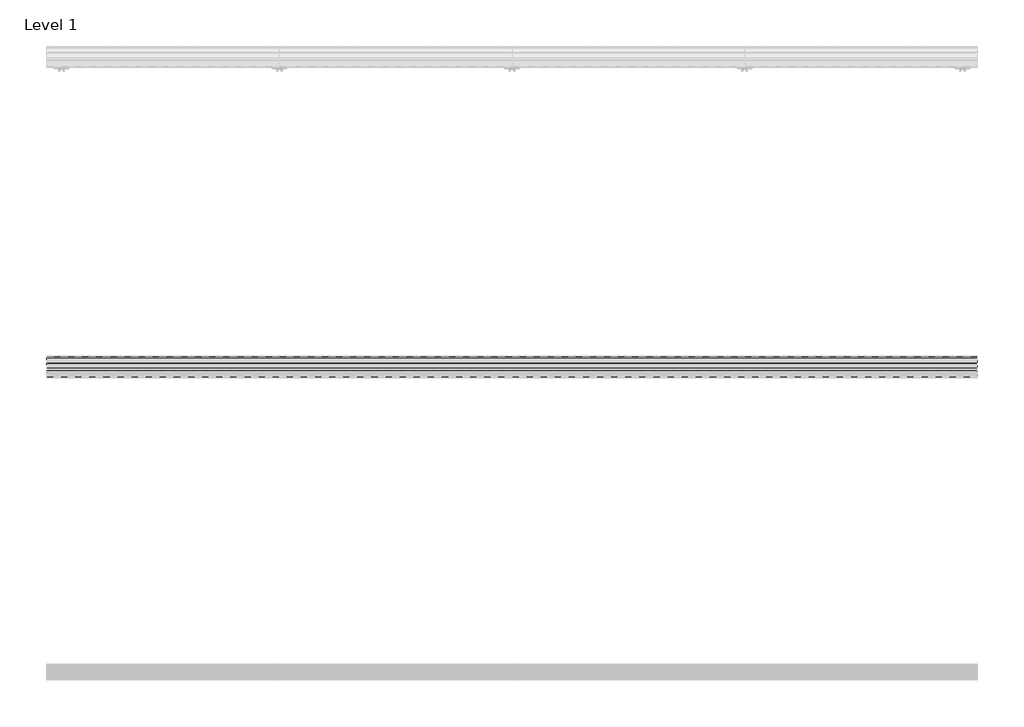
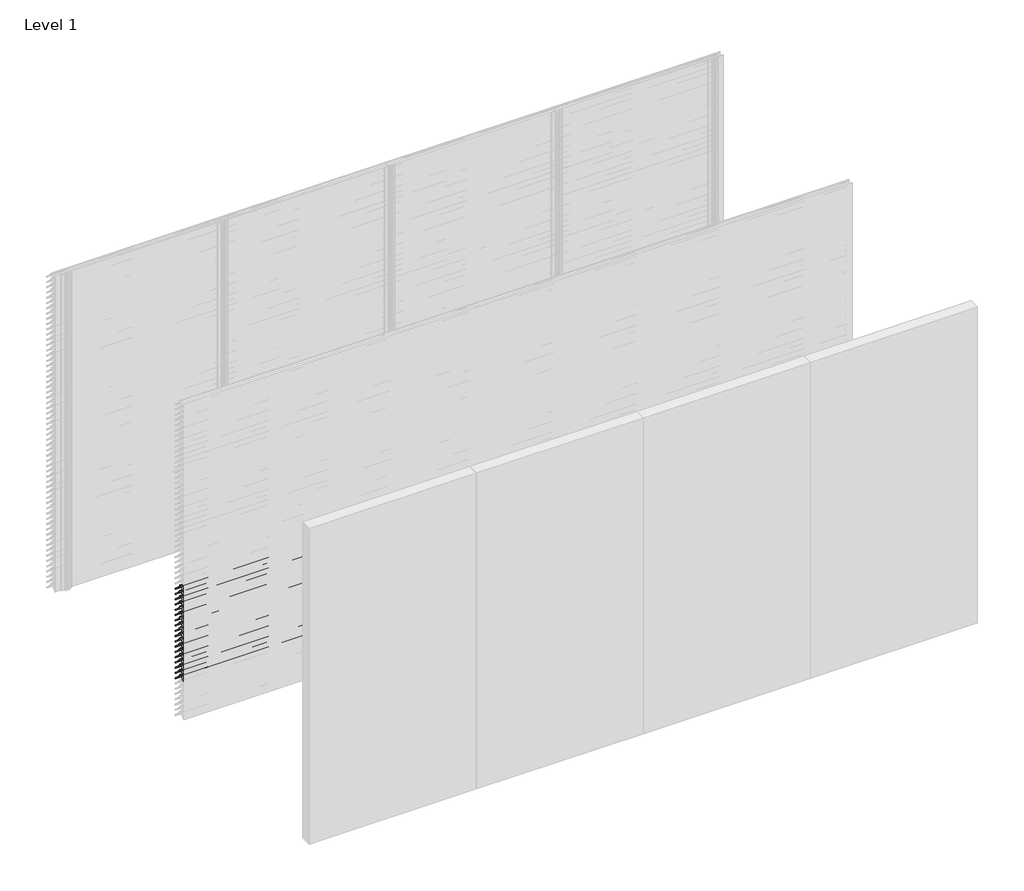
# One storey, part 5 of 173: 18 proxies.
"""IFC4 building model written with IfcOpenShell, lengths in millimetres."""

from ifc_helpers import new_model, si_unit, point, frame, frame_2d, origin, place, context, project, spatial, polyline, circle_curve, trimmed, segment, composite_curve, outline, extrude, element, save

model = new_model("IFC4")

# Units and contexts
model_context = context("Model", 3, world=origin())
ifc_project = project(units=[si_unit("LENGTHUNIT", "METRE", prefix="MILLI")], contexts=[model_context])

# Site, building, storey
site = spatial("IfcSite", under=ifc_project)
building = spatial("IfcBuilding", under=site)
storey = spatial("IfcBuildingStorey", under=building, Name="Level 1", Elevation=0.0)

# Proxies
placement = place(None, origin())
element("IfcBuildingElementProxy", 1, Name="Wall Sweeps", at=placement, inside=storey, context=model_context, shape_type="SweptSolid", body=[
    extrude(outline(composite_curve([segment(polyline([(-55998.0, 1209.1474905), (-55998.0, 1211.6227417)]), True, "CONTINUOUS"), segment(trimmed(circle_curve(frame_2d((-55951.2682172, 1166.2200208)), 65.1557103), [point((-55998.0, 1211.6227417))], [point((-55954.4014323, 1231.3003524))], False, "CARTESIAN"), True, "CONTINUOUS"), segment(polyline([(-55954.4014323, 1231.3003524), (-55934.8315836, 1231.3003524)]), True, "CONTINUOUS"), segment(trimmed(circle_curve(frame_2d((-55732.7329489, 1378.5533172)), 250.0545817), [point((-55934.8315836, 1231.3003524))], [point((-55941.4452143, 1240.8344583))], False, "CARTESIAN"), True, "CONTINUOUS"), segment(trimmed(circle_curve(frame_2d((-55953.2981792, 1235.1737835)), 13.1352966), [point((-55941.4452143, 1240.8344583))], [point((-55953.8171475, 1248.298824))], True, "CARTESIAN"), True, "CONTINUOUS"), segment(polyline([(-55953.8171475, 1248.298824), (-55953.8171475, 1250.0)]), True, "CONTINUOUS"), segment(trimmed(circle_curve(frame_2d((-55953.2981792, 1235.1737835)), 14.8352966), [point((-55953.8171475, 1250.0))], [point((-55939.9637661, 1241.6760487))], False, "CARTESIAN"), True, "CONTINUOUS"), segment(trimmed(circle_curve(frame_2d((-55732.7329489, 1378.5533172)), 248.3545817), [point((-55939.9637661, 1241.6760487))], [point((-55873.8787895, 1174.2059416))], True, "CARTESIAN"), True, "CONTINUOUS"), segment(trimmed(circle_curve(frame_2d((-55883.8147537, 1161.6649442)), 16.0), [point((-55873.8787895, 1174.2059416))], [point((-55867.8648347, 1160.4))], False, "CARTESIAN"), True, "CONTINUOUS"), segment(polyline([(-55867.8648347, 1160.4), (-55869.6712069, 1160.4)]), True, "CONTINUOUS"), segment(trimmed(circle_curve(frame_2d((-55883.8147537, 1161.6649442)), 14.2), [point((-55869.6712069, 1160.4))], [point((-55874.9518628, 1172.7594998))], True, "CARTESIAN"), True, "CONTINUOUS"), segment(trimmed(circle_curve(frame_2d((-55732.7329489, 1378.5533172)), 250.1545817), [point((-55874.9518628, 1172.7594998))], [point((-55933.7064024, 1229.6003524))], False, "CARTESIAN"), True, "CONTINUOUS"), segment(polyline([(-55933.7064024, 1229.6003524), (-55954.3602632, 1229.6003524)]), True, "CONTINUOUS"), segment(trimmed(circle_curve(frame_2d((-55951.2682172, 1166.2200208)), 63.4557103), [point((-55954.3602632, 1229.6003524))], [point((-55998.0, 1209.1474905))], True, "CARTESIAN"), True, "CONTINUOUS")], self_intersect=False)), frame((0.0, 0.0, 0.0), z_axis=(1.0, 0.0, 0.0), x_axis=(0.0, 1.0, 0.0)), (0.0, 0.0, 1.0), 6000.0),
])
element("IfcBuildingElementProxy", 2, Name="Wall Sweeps", at=placement, inside=storey, context=model_context, shape_type="SweptSolid", body=[
    extrude(outline(composite_curve([segment(polyline([(-55998.0, 1159.1474905), (-55998.0, 1161.6227417)]), True, "CONTINUOUS"), segment(trimmed(circle_curve(frame_2d((-55951.2682172, 1116.2200208)), 65.1557103), [point((-55998.0, 1161.6227417))], [point((-55954.4014323, 1181.3003524))], False, "CARTESIAN"), True, "CONTINUOUS"), segment(polyline([(-55954.4014323, 1181.3003524), (-55934.8315836, 1181.3003524)]), True, "CONTINUOUS"), segment(trimmed(circle_curve(frame_2d((-55732.7329489, 1328.5533172)), 250.0545817), [point((-55934.8315836, 1181.3003524))], [point((-55941.4452143, 1190.8344583))], False, "CARTESIAN"), True, "CONTINUOUS"), segment(trimmed(circle_curve(frame_2d((-55953.2981792, 1185.1737835)), 13.1352966), [point((-55941.4452143, 1190.8344583))], [point((-55953.8171475, 1198.298824))], True, "CARTESIAN"), True, "CONTINUOUS"), segment(polyline([(-55953.8171475, 1198.298824), (-55953.8171475, 1200.0)]), True, "CONTINUOUS"), segment(trimmed(circle_curve(frame_2d((-55953.2981792, 1185.1737835)), 14.8352966), [point((-55953.8171475, 1200.0))], [point((-55939.9637661, 1191.6760487))], False, "CARTESIAN"), True, "CONTINUOUS"), segment(trimmed(circle_curve(frame_2d((-55732.7329489, 1328.5533172)), 248.3545817), [point((-55939.9637661, 1191.6760487))], [point((-55873.8787895, 1124.2059416))], True, "CARTESIAN"), True, "CONTINUOUS"), segment(trimmed(circle_curve(frame_2d((-55883.8147537, 1111.6649442)), 16.0), [point((-55873.8787895, 1124.2059416))], [point((-55867.8648347, 1110.4))], False, "CARTESIAN"), True, "CONTINUOUS"), segment(polyline([(-55867.8648347, 1110.4), (-55869.6712069, 1110.4)]), True, "CONTINUOUS"), segment(trimmed(circle_curve(frame_2d((-55883.8147537, 1111.6649442)), 14.2), [point((-55869.6712069, 1110.4))], [point((-55874.9518628, 1122.7594998))], True, "CARTESIAN"), True, "CONTINUOUS"), segment(trimmed(circle_curve(frame_2d((-55732.7329489, 1328.5533172)), 250.1545817), [point((-55874.9518628, 1122.7594998))], [point((-55933.7064024, 1179.6003524))], False, "CARTESIAN"), True, "CONTINUOUS"), segment(polyline([(-55933.7064024, 1179.6003524), (-55954.3602632, 1179.6003524)]), True, "CONTINUOUS"), segment(trimmed(circle_curve(frame_2d((-55951.2682172, 1116.2200208)), 63.4557103), [point((-55954.3602632, 1179.6003524))], [point((-55998.0, 1159.1474905))], True, "CARTESIAN"), True, "CONTINUOUS")], self_intersect=False)), frame((0.0, 0.0, 0.0), z_axis=(1.0, 0.0, 0.0), x_axis=(0.0, 1.0, 0.0)), (0.0, 0.0, 1.0), 6000.0),
])
element("IfcBuildingElementProxy", 3, Name="Wall Sweeps", at=placement, inside=storey, context=model_context, shape_type="SweptSolid", body=[
    extrude(outline(composite_curve([segment(polyline([(-55998.0, 1109.1474905), (-55998.0, 1111.6227417)]), True, "CONTINUOUS"), segment(trimmed(circle_curve(frame_2d((-55951.2682172, 1066.2200208)), 65.1557103), [point((-55998.0, 1111.6227417))], [point((-55954.4014323, 1131.3003524))], False, "CARTESIAN"), True, "CONTINUOUS"), segment(polyline([(-55954.4014323, 1131.3003524), (-55934.8315836, 1131.3003524)]), True, "CONTINUOUS"), segment(trimmed(circle_curve(frame_2d((-55732.7329489, 1278.5533172)), 250.0545817), [point((-55934.8315836, 1131.3003524))], [point((-55941.4452143, 1140.8344583))], False, "CARTESIAN"), True, "CONTINUOUS"), segment(trimmed(circle_curve(frame_2d((-55953.2981792, 1135.1737835)), 13.1352966), [point((-55941.4452143, 1140.8344583))], [point((-55953.8171475, 1148.298824))], True, "CARTESIAN"), True, "CONTINUOUS"), segment(polyline([(-55953.8171475, 1148.298824), (-55953.8171475, 1150.0)]), True, "CONTINUOUS"), segment(trimmed(circle_curve(frame_2d((-55953.2981792, 1135.1737835)), 14.8352966), [point((-55953.8171475, 1150.0))], [point((-55939.9637661, 1141.6760487))], False, "CARTESIAN"), True, "CONTINUOUS"), segment(trimmed(circle_curve(frame_2d((-55732.7329489, 1278.5533172)), 248.3545817), [point((-55939.9637661, 1141.6760487))], [point((-55873.8787895, 1074.2059416))], True, "CARTESIAN"), True, "CONTINUOUS"), segment(trimmed(circle_curve(frame_2d((-55883.8147537, 1061.6649442)), 16.0), [point((-55873.8787895, 1074.2059416))], [point((-55867.8648347, 1060.4))], False, "CARTESIAN"), True, "CONTINUOUS"), segment(polyline([(-55867.8648347, 1060.4), (-55869.6712069, 1060.4)]), True, "CONTINUOUS"), segment(trimmed(circle_curve(frame_2d((-55883.8147537, 1061.6649442)), 14.2), [point((-55869.6712069, 1060.4))], [point((-55874.9518628, 1072.7594998))], True, "CARTESIAN"), True, "CONTINUOUS"), segment(trimmed(circle_curve(frame_2d((-55732.7329489, 1278.5533172)), 250.1545817), [point((-55874.9518628, 1072.7594998))], [point((-55933.7064024, 1129.6003524))], False, "CARTESIAN"), True, "CONTINUOUS"), segment(polyline([(-55933.7064024, 1129.6003524), (-55954.3602632, 1129.6003524)]), True, "CONTINUOUS"), segment(trimmed(circle_curve(frame_2d((-55951.2682172, 1066.2200208)), 63.4557103), [point((-55954.3602632, 1129.6003524))], [point((-55998.0, 1109.1474905))], True, "CARTESIAN"), True, "CONTINUOUS")], self_intersect=False)), frame((0.0, 0.0, 0.0), z_axis=(1.0, 0.0, 0.0), x_axis=(0.0, 1.0, 0.0)), (0.0, 0.0, 1.0), 6000.0),
])
element("IfcBuildingElementProxy", 4, Name="Wall Sweeps", at=placement, inside=storey, context=model_context, shape_type="SweptSolid", body=[
    extrude(outline(composite_curve([segment(polyline([(-55998.0, 1059.1474905), (-55998.0, 1061.6227417)]), True, "CONTINUOUS"), segment(trimmed(circle_curve(frame_2d((-55951.2682172, 1016.2200208)), 65.1557103), [point((-55998.0, 1061.6227417))], [point((-55954.4014323, 1081.3003524))], False, "CARTESIAN"), True, "CONTINUOUS"), segment(polyline([(-55954.4014323, 1081.3003524), (-55934.8315836, 1081.3003524)]), True, "CONTINUOUS"), segment(trimmed(circle_curve(frame_2d((-55732.7329489, 1228.5533172)), 250.0545817), [point((-55934.8315836, 1081.3003524))], [point((-55941.4452143, 1090.8344583))], False, "CARTESIAN"), True, "CONTINUOUS"), segment(trimmed(circle_curve(frame_2d((-55953.2981792, 1085.1737835)), 13.1352966), [point((-55941.4452143, 1090.8344583))], [point((-55953.8171475, 1098.298824))], True, "CARTESIAN"), True, "CONTINUOUS"), segment(polyline([(-55953.8171475, 1098.298824), (-55953.8171475, 1100.0)]), True, "CONTINUOUS"), segment(trimmed(circle_curve(frame_2d((-55953.2981792, 1085.1737835)), 14.8352966), [point((-55953.8171475, 1100.0))], [point((-55939.9637661, 1091.6760487))], False, "CARTESIAN"), True, "CONTINUOUS"), segment(trimmed(circle_curve(frame_2d((-55732.7329489, 1228.5533172)), 248.3545817), [point((-55939.9637661, 1091.6760487))], [point((-55873.8787895, 1024.2059416))], True, "CARTESIAN"), True, "CONTINUOUS"), segment(trimmed(circle_curve(frame_2d((-55883.8147537, 1011.6649442)), 16.0), [point((-55873.8787895, 1024.2059416))], [point((-55867.8648347, 1010.4))], False, "CARTESIAN"), True, "CONTINUOUS"), segment(polyline([(-55867.8648347, 1010.4), (-55869.6712069, 1010.4)]), True, "CONTINUOUS"), segment(trimmed(circle_curve(frame_2d((-55883.8147537, 1011.6649442)), 14.2), [point((-55869.6712069, 1010.4))], [point((-55874.9518628, 1022.7594998))], True, "CARTESIAN"), True, "CONTINUOUS"), segment(trimmed(circle_curve(frame_2d((-55732.7329489, 1228.5533172)), 250.1545817), [point((-55874.9518628, 1022.7594998))], [point((-55933.7064024, 1079.6003524))], False, "CARTESIAN"), True, "CONTINUOUS"), segment(polyline([(-55933.7064024, 1079.6003524), (-55954.3602632, 1079.6003524)]), True, "CONTINUOUS"), segment(trimmed(circle_curve(frame_2d((-55951.2682172, 1016.2200208)), 63.4557103), [point((-55954.3602632, 1079.6003524))], [point((-55998.0, 1059.1474905))], True, "CARTESIAN"), True, "CONTINUOUS")], self_intersect=False)), frame((0.0, 0.0, 0.0), z_axis=(1.0, 0.0, 0.0), x_axis=(0.0, 1.0, 0.0)), (0.0, 0.0, 1.0), 6000.0),
])
element("IfcBuildingElementProxy", 5, Name="Wall Sweeps", at=placement, inside=storey, context=model_context, shape_type="SweptSolid", body=[
    extrude(outline(composite_curve([segment(polyline([(-55998.0, 1009.1474905), (-55998.0, 1011.6227417)]), True, "CONTINUOUS"), segment(trimmed(circle_curve(frame_2d((-55951.2682172, 966.2200208)), 65.1557103), [point((-55998.0, 1011.6227417))], [point((-55954.4014323, 1031.3003524))], False, "CARTESIAN"), True, "CONTINUOUS"), segment(polyline([(-55954.4014323, 1031.3003524), (-55934.8315836, 1031.3003524)]), True, "CONTINUOUS"), segment(trimmed(circle_curve(frame_2d((-55732.7329489, 1178.5533172)), 250.0545817), [point((-55934.8315836, 1031.3003524))], [point((-55941.4452143, 1040.8344583))], False, "CARTESIAN"), True, "CONTINUOUS"), segment(trimmed(circle_curve(frame_2d((-55953.2981792, 1035.1737835)), 13.1352966), [point((-55941.4452143, 1040.8344583))], [point((-55953.8171475, 1048.298824))], True, "CARTESIAN"), True, "CONTINUOUS"), segment(polyline([(-55953.8171475, 1048.298824), (-55953.8171475, 1050.0)]), True, "CONTINUOUS"), segment(trimmed(circle_curve(frame_2d((-55953.2981792, 1035.1737835)), 14.8352966), [point((-55953.8171475, 1050.0))], [point((-55939.9637661, 1041.6760487))], False, "CARTESIAN"), True, "CONTINUOUS"), segment(trimmed(circle_curve(frame_2d((-55732.7329489, 1178.5533172)), 248.3545817), [point((-55939.9637661, 1041.6760487))], [point((-55873.8787895, 974.2059416))], True, "CARTESIAN"), True, "CONTINUOUS"), segment(trimmed(circle_curve(frame_2d((-55883.8147537, 961.6649442)), 16.0), [point((-55873.8787895, 974.2059416))], [point((-55867.8648347, 960.4))], False, "CARTESIAN"), True, "CONTINUOUS"), segment(polyline([(-55867.8648347, 960.4), (-55869.6712069, 960.4)]), True, "CONTINUOUS"), segment(trimmed(circle_curve(frame_2d((-55883.8147537, 961.6649442)), 14.2), [point((-55869.6712069, 960.4))], [point((-55874.9518628, 972.7594998))], True, "CARTESIAN"), True, "CONTINUOUS"), segment(trimmed(circle_curve(frame_2d((-55732.7329489, 1178.5533172)), 250.1545817), [point((-55874.9518628, 972.7594998))], [point((-55933.7064024, 1029.6003524))], False, "CARTESIAN"), True, "CONTINUOUS"), segment(polyline([(-55933.7064024, 1029.6003524), (-55954.3602632, 1029.6003524)]), True, "CONTINUOUS"), segment(trimmed(circle_curve(frame_2d((-55951.2682172, 966.2200208)), 63.4557103), [point((-55954.3602632, 1029.6003524))], [point((-55998.0, 1009.1474905))], True, "CARTESIAN"), True, "CONTINUOUS")], self_intersect=False)), frame((0.0, 0.0, 0.0), z_axis=(1.0, 0.0, 0.0), x_axis=(0.0, 1.0, 0.0)), (0.0, 0.0, 1.0), 6000.0),
])
element("IfcBuildingElementProxy", 6, Name="Wall Sweeps", at=placement, inside=storey, context=model_context, shape_type="SweptSolid", body=[
    extrude(outline(composite_curve([segment(polyline([(-55998.0, 959.1474905), (-55998.0, 961.6227417)]), True, "CONTINUOUS"), segment(trimmed(circle_curve(frame_2d((-55951.2682172, 916.2200208)), 65.1557103), [point((-55998.0, 961.6227417))], [point((-55954.4014323, 981.3003524))], False, "CARTESIAN"), True, "CONTINUOUS"), segment(polyline([(-55954.4014323, 981.3003524), (-55934.8315836, 981.3003524)]), True, "CONTINUOUS"), segment(trimmed(circle_curve(frame_2d((-55732.7329489, 1128.5533172)), 250.0545817), [point((-55934.8315836, 981.3003524))], [point((-55941.4452143, 990.8344583))], False, "CARTESIAN"), True, "CONTINUOUS"), segment(trimmed(circle_curve(frame_2d((-55953.2981792, 985.1737835)), 13.1352966), [point((-55941.4452143, 990.8344583))], [point((-55953.8171475, 998.298824))], True, "CARTESIAN"), True, "CONTINUOUS"), segment(polyline([(-55953.8171475, 998.298824), (-55953.8171475, 1000.0)]), True, "CONTINUOUS"), segment(trimmed(circle_curve(frame_2d((-55953.2981792, 985.1737835)), 14.8352966), [point((-55953.8171475, 1000.0))], [point((-55939.9637661, 991.6760487))], False, "CARTESIAN"), True, "CONTINUOUS"), segment(trimmed(circle_curve(frame_2d((-55732.7329489, 1128.5533172)), 248.3545817), [point((-55939.9637661, 991.6760487))], [point((-55873.8787895, 924.2059416))], True, "CARTESIAN"), True, "CONTINUOUS"), segment(trimmed(circle_curve(frame_2d((-55883.8147537, 911.6649442)), 16.0), [point((-55873.8787895, 924.2059416))], [point((-55867.8648347, 910.4))], False, "CARTESIAN"), True, "CONTINUOUS"), segment(polyline([(-55867.8648347, 910.4), (-55869.6712069, 910.4)]), True, "CONTINUOUS"), segment(trimmed(circle_curve(frame_2d((-55883.8147537, 911.6649442)), 14.2), [point((-55869.6712069, 910.4))], [point((-55874.9518628, 922.7594998))], True, "CARTESIAN"), True, "CONTINUOUS"), segment(trimmed(circle_curve(frame_2d((-55732.7329489, 1128.5533172)), 250.1545817), [point((-55874.9518628, 922.7594998))], [point((-55933.7064024, 979.6003524))], False, "CARTESIAN"), True, "CONTINUOUS"), segment(polyline([(-55933.7064024, 979.6003524), (-55954.3602632, 979.6003524)]), True, "CONTINUOUS"), segment(trimmed(circle_curve(frame_2d((-55951.2682172, 916.2200208)), 63.4557103), [point((-55954.3602632, 979.6003524))], [point((-55998.0, 959.1474905))], True, "CARTESIAN"), True, "CONTINUOUS")], self_intersect=False)), frame((0.0, 0.0, 0.0), z_axis=(1.0, 0.0, 0.0), x_axis=(0.0, 1.0, 0.0)), (0.0, 0.0, 1.0), 6000.0),
])
element("IfcBuildingElementProxy", 7, Name="Wall Sweeps", at=placement, inside=storey, context=model_context, shape_type="SweptSolid", body=[
    extrude(outline(composite_curve([segment(polyline([(-55998.0, 909.1474905), (-55998.0, 911.6227417)]), True, "CONTINUOUS"), segment(trimmed(circle_curve(frame_2d((-55951.2682172, 866.2200208)), 65.1557103), [point((-55998.0, 911.6227417))], [point((-55954.4014323, 931.3003524))], False, "CARTESIAN"), True, "CONTINUOUS"), segment(polyline([(-55954.4014323, 931.3003524), (-55934.8315836, 931.3003524)]), True, "CONTINUOUS"), segment(trimmed(circle_curve(frame_2d((-55732.7329489, 1078.5533172)), 250.0545817), [point((-55934.8315836, 931.3003524))], [point((-55941.4452143, 940.8344583))], False, "CARTESIAN"), True, "CONTINUOUS"), segment(trimmed(circle_curve(frame_2d((-55953.2981792, 935.1737835)), 13.1352966), [point((-55941.4452143, 940.8344583))], [point((-55953.8171475, 948.298824))], True, "CARTESIAN"), True, "CONTINUOUS"), segment(polyline([(-55953.8171475, 948.298824), (-55953.8171475, 950.0)]), True, "CONTINUOUS"), segment(trimmed(circle_curve(frame_2d((-55953.2981792, 935.1737835)), 14.8352966), [point((-55953.8171475, 950.0))], [point((-55939.9637661, 941.6760487))], False, "CARTESIAN"), True, "CONTINUOUS"), segment(trimmed(circle_curve(frame_2d((-55732.7329489, 1078.5533172)), 248.3545817), [point((-55939.9637661, 941.6760487))], [point((-55873.8787895, 874.2059416))], True, "CARTESIAN"), True, "CONTINUOUS"), segment(trimmed(circle_curve(frame_2d((-55883.8147537, 861.6649442)), 16.0), [point((-55873.8787895, 874.2059416))], [point((-55867.8648347, 860.4))], False, "CARTESIAN"), True, "CONTINUOUS"), segment(polyline([(-55867.8648347, 860.4), (-55869.6712069, 860.4)]), True, "CONTINUOUS"), segment(trimmed(circle_curve(frame_2d((-55883.8147537, 861.6649442)), 14.2), [point((-55869.6712069, 860.4))], [point((-55874.9518628, 872.7594998))], True, "CARTESIAN"), True, "CONTINUOUS"), segment(trimmed(circle_curve(frame_2d((-55732.7329489, 1078.5533172)), 250.1545817), [point((-55874.9518628, 872.7594998))], [point((-55933.7064024, 929.6003524))], False, "CARTESIAN"), True, "CONTINUOUS"), segment(polyline([(-55933.7064024, 929.6003524), (-55954.3602632, 929.6003524)]), True, "CONTINUOUS"), segment(trimmed(circle_curve(frame_2d((-55951.2682172, 866.2200208)), 63.4557103), [point((-55954.3602632, 929.6003524))], [point((-55998.0, 909.1474905))], True, "CARTESIAN"), True, "CONTINUOUS")], self_intersect=False)), frame((0.0, 0.0, 0.0), z_axis=(1.0, 0.0, 0.0), x_axis=(0.0, 1.0, 0.0)), (0.0, 0.0, 1.0), 6000.0),
])
element("IfcBuildingElementProxy", 8, Name="Wall Sweeps", at=placement, inside=storey, context=model_context, shape_type="SweptSolid", body=[
    extrude(outline(composite_curve([segment(polyline([(-55998.0, 859.1474905), (-55998.0, 861.6227417)]), True, "CONTINUOUS"), segment(trimmed(circle_curve(frame_2d((-55951.2682172, 816.2200208)), 65.1557103), [point((-55998.0, 861.6227417))], [point((-55954.4014323, 881.3003524))], False, "CARTESIAN"), True, "CONTINUOUS"), segment(polyline([(-55954.4014323, 881.3003524), (-55934.8315836, 881.3003524)]), True, "CONTINUOUS"), segment(trimmed(circle_curve(frame_2d((-55732.7329489, 1028.5533172)), 250.0545817), [point((-55934.8315836, 881.3003524))], [point((-55941.4452143, 890.8344583))], False, "CARTESIAN"), True, "CONTINUOUS"), segment(trimmed(circle_curve(frame_2d((-55953.2981792, 885.1737835)), 13.1352966), [point((-55941.4452143, 890.8344583))], [point((-55953.8171475, 898.298824))], True, "CARTESIAN"), True, "CONTINUOUS"), segment(polyline([(-55953.8171475, 898.298824), (-55953.8171475, 900.0)]), True, "CONTINUOUS"), segment(trimmed(circle_curve(frame_2d((-55953.2981792, 885.1737835)), 14.8352966), [point((-55953.8171475, 900.0))], [point((-55939.9637661, 891.6760487))], False, "CARTESIAN"), True, "CONTINUOUS"), segment(trimmed(circle_curve(frame_2d((-55732.7329489, 1028.5533172)), 248.3545817), [point((-55939.9637661, 891.6760487))], [point((-55873.8787895, 824.2059416))], True, "CARTESIAN"), True, "CONTINUOUS"), segment(trimmed(circle_curve(frame_2d((-55883.8147537, 811.6649442)), 16.0), [point((-55873.8787895, 824.2059416))], [point((-55867.8648347, 810.4))], False, "CARTESIAN"), True, "CONTINUOUS"), segment(polyline([(-55867.8648347, 810.4), (-55869.6712069, 810.4)]), True, "CONTINUOUS"), segment(trimmed(circle_curve(frame_2d((-55883.8147537, 811.6649442)), 14.2), [point((-55869.6712069, 810.4))], [point((-55874.9518628, 822.7594998))], True, "CARTESIAN"), True, "CONTINUOUS"), segment(trimmed(circle_curve(frame_2d((-55732.7329489, 1028.5533172)), 250.1545817), [point((-55874.9518628, 822.7594998))], [point((-55933.7064024, 879.6003524))], False, "CARTESIAN"), True, "CONTINUOUS"), segment(polyline([(-55933.7064024, 879.6003524), (-55954.3602632, 879.6003524)]), True, "CONTINUOUS"), segment(trimmed(circle_curve(frame_2d((-55951.2682172, 816.2200208)), 63.4557103), [point((-55954.3602632, 879.6003524))], [point((-55998.0, 859.1474905))], True, "CARTESIAN"), True, "CONTINUOUS")], self_intersect=False)), frame((0.0, 0.0, 0.0), z_axis=(1.0, 0.0, 0.0), x_axis=(0.0, 1.0, 0.0)), (0.0, 0.0, 1.0), 6000.0),
])
element("IfcBuildingElementProxy", 9, Name="Wall Sweeps", at=placement, inside=storey, context=model_context, shape_type="SweptSolid", body=[
    extrude(outline(composite_curve([segment(polyline([(-55998.0, 809.1474905), (-55998.0, 811.6227417)]), True, "CONTINUOUS"), segment(trimmed(circle_curve(frame_2d((-55951.2682172, 766.2200208)), 65.1557103), [point((-55998.0, 811.6227417))], [point((-55954.4014323, 831.3003524))], False, "CARTESIAN"), True, "CONTINUOUS"), segment(polyline([(-55954.4014323, 831.3003524), (-55934.8315836, 831.3003524)]), True, "CONTINUOUS"), segment(trimmed(circle_curve(frame_2d((-55732.7329489, 978.5533172)), 250.0545817), [point((-55934.8315836, 831.3003524))], [point((-55941.4452143, 840.8344583))], False, "CARTESIAN"), True, "CONTINUOUS"), segment(trimmed(circle_curve(frame_2d((-55953.2981792, 835.1737835)), 13.1352966), [point((-55941.4452143, 840.8344583))], [point((-55953.8171475, 848.298824))], True, "CARTESIAN"), True, "CONTINUOUS"), segment(polyline([(-55953.8171475, 848.298824), (-55953.8171475, 850.0)]), True, "CONTINUOUS"), segment(trimmed(circle_curve(frame_2d((-55953.2981792, 835.1737835)), 14.8352966), [point((-55953.8171475, 850.0))], [point((-55939.9637661, 841.6760487))], False, "CARTESIAN"), True, "CONTINUOUS"), segment(trimmed(circle_curve(frame_2d((-55732.7329489, 978.5533172)), 248.3545817), [point((-55939.9637661, 841.6760487))], [point((-55873.8787895, 774.2059416))], True, "CARTESIAN"), True, "CONTINUOUS"), segment(trimmed(circle_curve(frame_2d((-55883.8147537, 761.6649442)), 16.0), [point((-55873.8787895, 774.2059416))], [point((-55867.8648347, 760.4))], False, "CARTESIAN"), True, "CONTINUOUS"), segment(polyline([(-55867.8648347, 760.4), (-55869.6712069, 760.4)]), True, "CONTINUOUS"), segment(trimmed(circle_curve(frame_2d((-55883.8147537, 761.6649442)), 14.2), [point((-55869.6712069, 760.4))], [point((-55874.9518628, 772.7594998))], True, "CARTESIAN"), True, "CONTINUOUS"), segment(trimmed(circle_curve(frame_2d((-55732.7329489, 978.5533172)), 250.1545817), [point((-55874.9518628, 772.7594998))], [point((-55933.7064024, 829.6003524))], False, "CARTESIAN"), True, "CONTINUOUS"), segment(polyline([(-55933.7064024, 829.6003524), (-55954.3602632, 829.6003524)]), True, "CONTINUOUS"), segment(trimmed(circle_curve(frame_2d((-55951.2682172, 766.2200208)), 63.4557103), [point((-55954.3602632, 829.6003524))], [point((-55998.0, 809.1474905))], True, "CARTESIAN"), True, "CONTINUOUS")], self_intersect=False)), frame((0.0, 0.0, 0.0), z_axis=(1.0, 0.0, 0.0), x_axis=(0.0, 1.0, 0.0)), (0.0, 0.0, 1.0), 6000.0),
])
element("IfcBuildingElementProxy", 10, Name="Wall Sweeps", at=placement, inside=storey, context=model_context, shape_type="SweptSolid", body=[
    extrude(outline(composite_curve([segment(polyline([(-55998.0, 759.1474905), (-55998.0, 761.6227417)]), True, "CONTINUOUS"), segment(trimmed(circle_curve(frame_2d((-55951.2682172, 716.2200208)), 65.1557103), [point((-55998.0, 761.6227417))], [point((-55954.4014323, 781.3003524))], False, "CARTESIAN"), True, "CONTINUOUS"), segment(polyline([(-55954.4014323, 781.3003524), (-55934.8315836, 781.3003524)]), True, "CONTINUOUS"), segment(trimmed(circle_curve(frame_2d((-55732.7329489, 928.5533172)), 250.0545817), [point((-55934.8315836, 781.3003524))], [point((-55941.4452143, 790.8344583))], False, "CARTESIAN"), True, "CONTINUOUS"), segment(trimmed(circle_curve(frame_2d((-55953.2981792, 785.1737835)), 13.1352966), [point((-55941.4452143, 790.8344583))], [point((-55953.8171475, 798.298824))], True, "CARTESIAN"), True, "CONTINUOUS"), segment(polyline([(-55953.8171475, 798.298824), (-55953.8171475, 800.0)]), True, "CONTINUOUS"), segment(trimmed(circle_curve(frame_2d((-55953.2981792, 785.1737835)), 14.8352966), [point((-55953.8171475, 800.0))], [point((-55939.9637661, 791.6760487))], False, "CARTESIAN"), True, "CONTINUOUS"), segment(trimmed(circle_curve(frame_2d((-55732.7329489, 928.5533172)), 248.3545817), [point((-55939.9637661, 791.6760487))], [point((-55873.8787895, 724.2059416))], True, "CARTESIAN"), True, "CONTINUOUS"), segment(trimmed(circle_curve(frame_2d((-55883.8147537, 711.6649442)), 16.0), [point((-55873.8787895, 724.2059416))], [point((-55867.8648347, 710.4))], False, "CARTESIAN"), True, "CONTINUOUS"), segment(polyline([(-55867.8648347, 710.4), (-55869.6712069, 710.4)]), True, "CONTINUOUS"), segment(trimmed(circle_curve(frame_2d((-55883.8147537, 711.6649442)), 14.2), [point((-55869.6712069, 710.4))], [point((-55874.9518628, 722.7594998))], True, "CARTESIAN"), True, "CONTINUOUS"), segment(trimmed(circle_curve(frame_2d((-55732.7329489, 928.5533172)), 250.1545817), [point((-55874.9518628, 722.7594998))], [point((-55933.7064024, 779.6003524))], False, "CARTESIAN"), True, "CONTINUOUS"), segment(polyline([(-55933.7064024, 779.6003524), (-55954.3602632, 779.6003524)]), True, "CONTINUOUS"), segment(trimmed(circle_curve(frame_2d((-55951.2682172, 716.2200208)), 63.4557103), [point((-55954.3602632, 779.6003524))], [point((-55998.0, 759.1474905))], True, "CARTESIAN"), True, "CONTINUOUS")], self_intersect=False)), frame((0.0, 0.0, 0.0), z_axis=(1.0, 0.0, 0.0), x_axis=(0.0, 1.0, 0.0)), (0.0, 0.0, 1.0), 6000.0),
])
element("IfcBuildingElementProxy", 11, Name="Wall Sweeps", at=placement, inside=storey, context=model_context, shape_type="SweptSolid", body=[
    extrude(outline(composite_curve([segment(polyline([(-55998.0, 709.1474905), (-55998.0, 711.6227417)]), True, "CONTINUOUS"), segment(trimmed(circle_curve(frame_2d((-55951.2682172, 666.2200208)), 65.1557103), [point((-55998.0, 711.6227417))], [point((-55954.4014323, 731.3003524))], False, "CARTESIAN"), True, "CONTINUOUS"), segment(polyline([(-55954.4014323, 731.3003524), (-55934.8315836, 731.3003524)]), True, "CONTINUOUS"), segment(trimmed(circle_curve(frame_2d((-55732.7329489, 878.5533172)), 250.0545817), [point((-55934.8315836, 731.3003524))], [point((-55941.4452143, 740.8344583))], False, "CARTESIAN"), True, "CONTINUOUS"), segment(trimmed(circle_curve(frame_2d((-55953.2981792, 735.1737835)), 13.1352966), [point((-55941.4452143, 740.8344583))], [point((-55953.8171475, 748.298824))], True, "CARTESIAN"), True, "CONTINUOUS"), segment(polyline([(-55953.8171475, 748.298824), (-55953.8171475, 750.0)]), True, "CONTINUOUS"), segment(trimmed(circle_curve(frame_2d((-55953.2981792, 735.1737835)), 14.8352966), [point((-55953.8171475, 750.0))], [point((-55939.9637661, 741.6760487))], False, "CARTESIAN"), True, "CONTINUOUS"), segment(trimmed(circle_curve(frame_2d((-55732.7329489, 878.5533172)), 248.3545817), [point((-55939.9637661, 741.6760487))], [point((-55873.8787895, 674.2059416))], True, "CARTESIAN"), True, "CONTINUOUS"), segment(trimmed(circle_curve(frame_2d((-55883.8147537, 661.6649442)), 16.0), [point((-55873.8787895, 674.2059416))], [point((-55867.8648347, 660.4))], False, "CARTESIAN"), True, "CONTINUOUS"), segment(polyline([(-55867.8648347, 660.4), (-55869.6712069, 660.4)]), True, "CONTINUOUS"), segment(trimmed(circle_curve(frame_2d((-55883.8147537, 661.6649442)), 14.2), [point((-55869.6712069, 660.4))], [point((-55874.9518628, 672.7594998))], True, "CARTESIAN"), True, "CONTINUOUS"), segment(trimmed(circle_curve(frame_2d((-55732.7329489, 878.5533172)), 250.1545817), [point((-55874.9518628, 672.7594998))], [point((-55933.7064024, 729.6003524))], False, "CARTESIAN"), True, "CONTINUOUS"), segment(polyline([(-55933.7064024, 729.6003524), (-55954.3602632, 729.6003524)]), True, "CONTINUOUS"), segment(trimmed(circle_curve(frame_2d((-55951.2682172, 666.2200208)), 63.4557103), [point((-55954.3602632, 729.6003524))], [point((-55998.0, 709.1474905))], True, "CARTESIAN"), True, "CONTINUOUS")], self_intersect=False)), frame((0.0, 0.0, 0.0), z_axis=(1.0, 0.0, 0.0), x_axis=(0.0, 1.0, 0.0)), (0.0, 0.0, 1.0), 6000.0),
])
element("IfcBuildingElementProxy", 12, Name="Wall Sweeps", at=placement, inside=storey, context=model_context, shape_type="SweptSolid", body=[
    extrude(outline(composite_curve([segment(polyline([(-55998.0, 659.1474905), (-55998.0, 661.6227417)]), True, "CONTINUOUS"), segment(trimmed(circle_curve(frame_2d((-55951.2682172, 616.2200208)), 65.1557103), [point((-55998.0, 661.6227417))], [point((-55954.4014323, 681.3003524))], False, "CARTESIAN"), True, "CONTINUOUS"), segment(polyline([(-55954.4014323, 681.3003524), (-55934.8315836, 681.3003524)]), True, "CONTINUOUS"), segment(trimmed(circle_curve(frame_2d((-55732.7329489, 828.5533172)), 250.0545817), [point((-55934.8315836, 681.3003524))], [point((-55941.4452143, 690.8344583))], False, "CARTESIAN"), True, "CONTINUOUS"), segment(trimmed(circle_curve(frame_2d((-55953.2981792, 685.1737835)), 13.1352966), [point((-55941.4452143, 690.8344583))], [point((-55953.8171475, 698.298824))], True, "CARTESIAN"), True, "CONTINUOUS"), segment(polyline([(-55953.8171475, 698.298824), (-55953.8171475, 700.0)]), True, "CONTINUOUS"), segment(trimmed(circle_curve(frame_2d((-55953.2981792, 685.1737835)), 14.8352966), [point((-55953.8171475, 700.0))], [point((-55939.9637661, 691.6760487))], False, "CARTESIAN"), True, "CONTINUOUS"), segment(trimmed(circle_curve(frame_2d((-55732.7329489, 828.5533172)), 248.3545817), [point((-55939.9637661, 691.6760487))], [point((-55873.8787895, 624.2059416))], True, "CARTESIAN"), True, "CONTINUOUS"), segment(trimmed(circle_curve(frame_2d((-55883.8147537, 611.6649442)), 16.0), [point((-55873.8787895, 624.2059416))], [point((-55867.8648347, 610.4))], False, "CARTESIAN"), True, "CONTINUOUS"), segment(polyline([(-55867.8648347, 610.4), (-55869.6712069, 610.4)]), True, "CONTINUOUS"), segment(trimmed(circle_curve(frame_2d((-55883.8147537, 611.6649442)), 14.2), [point((-55869.6712069, 610.4))], [point((-55874.9518628, 622.7594998))], True, "CARTESIAN"), True, "CONTINUOUS"), segment(trimmed(circle_curve(frame_2d((-55732.7329489, 828.5533172)), 250.1545817), [point((-55874.9518628, 622.7594998))], [point((-55933.7064024, 679.6003524))], False, "CARTESIAN"), True, "CONTINUOUS"), segment(polyline([(-55933.7064024, 679.6003524), (-55954.3602632, 679.6003524)]), True, "CONTINUOUS"), segment(trimmed(circle_curve(frame_2d((-55951.2682172, 616.2200208)), 63.4557103), [point((-55954.3602632, 679.6003524))], [point((-55998.0, 659.1474905))], True, "CARTESIAN"), True, "CONTINUOUS")], self_intersect=False)), frame((0.0, 0.0, 0.0), z_axis=(1.0, 0.0, 0.0), x_axis=(0.0, 1.0, 0.0)), (0.0, 0.0, 1.0), 6000.0),
])
element("IfcBuildingElementProxy", 13, Name="Wall Sweeps", at=placement, inside=storey, context=model_context, shape_type="SweptSolid", body=[
    extrude(outline(composite_curve([segment(polyline([(-55998.0, 609.1474905), (-55998.0, 611.6227417)]), True, "CONTINUOUS"), segment(trimmed(circle_curve(frame_2d((-55951.2682172, 566.2200208)), 65.1557103), [point((-55998.0, 611.6227417))], [point((-55954.4014323, 631.3003524))], False, "CARTESIAN"), True, "CONTINUOUS"), segment(polyline([(-55954.4014323, 631.3003524), (-55934.8315836, 631.3003524)]), True, "CONTINUOUS"), segment(trimmed(circle_curve(frame_2d((-55732.7329489, 778.5533172)), 250.0545817), [point((-55934.8315836, 631.3003524))], [point((-55941.4452143, 640.8344583))], False, "CARTESIAN"), True, "CONTINUOUS"), segment(trimmed(circle_curve(frame_2d((-55953.2981792, 635.1737835)), 13.1352966), [point((-55941.4452143, 640.8344583))], [point((-55953.8171475, 648.298824))], True, "CARTESIAN"), True, "CONTINUOUS"), segment(polyline([(-55953.8171475, 648.298824), (-55953.8171475, 650.0)]), True, "CONTINUOUS"), segment(trimmed(circle_curve(frame_2d((-55953.2981792, 635.1737835)), 14.8352966), [point((-55953.8171475, 650.0))], [point((-55939.9637661, 641.6760487))], False, "CARTESIAN"), True, "CONTINUOUS"), segment(trimmed(circle_curve(frame_2d((-55732.7329489, 778.5533172)), 248.3545817), [point((-55939.9637661, 641.6760487))], [point((-55873.8787895, 574.2059416))], True, "CARTESIAN"), True, "CONTINUOUS"), segment(trimmed(circle_curve(frame_2d((-55883.8147537, 561.6649442)), 16.0), [point((-55873.8787895, 574.2059416))], [point((-55867.8648347, 560.4))], False, "CARTESIAN"), True, "CONTINUOUS"), segment(polyline([(-55867.8648347, 560.4), (-55869.6712069, 560.4)]), True, "CONTINUOUS"), segment(trimmed(circle_curve(frame_2d((-55883.8147537, 561.6649442)), 14.2), [point((-55869.6712069, 560.4))], [point((-55874.9518628, 572.7594998))], True, "CARTESIAN"), True, "CONTINUOUS"), segment(trimmed(circle_curve(frame_2d((-55732.7329489, 778.5533172)), 250.1545817), [point((-55874.9518628, 572.7594998))], [point((-55933.7064024, 629.6003524))], False, "CARTESIAN"), True, "CONTINUOUS"), segment(polyline([(-55933.7064024, 629.6003524), (-55954.3602632, 629.6003524)]), True, "CONTINUOUS"), segment(trimmed(circle_curve(frame_2d((-55951.2682172, 566.2200208)), 63.4557103), [point((-55954.3602632, 629.6003524))], [point((-55998.0, 609.1474905))], True, "CARTESIAN"), True, "CONTINUOUS")], self_intersect=False)), frame((0.0, 0.0, 0.0), z_axis=(1.0, 0.0, 0.0), x_axis=(0.0, 1.0, 0.0)), (0.0, 0.0, 1.0), 6000.0),
])
element("IfcBuildingElementProxy", 14, Name="Wall Sweeps", at=placement, inside=storey, context=model_context, shape_type="SweptSolid", body=[
    extrude(outline(composite_curve([segment(polyline([(-55998.0, 559.1474905), (-55998.0, 561.6227417)]), True, "CONTINUOUS"), segment(trimmed(circle_curve(frame_2d((-55951.2682172, 516.2200208)), 65.1557103), [point((-55998.0, 561.6227417))], [point((-55954.4014323, 581.3003524))], False, "CARTESIAN"), True, "CONTINUOUS"), segment(polyline([(-55954.4014323, 581.3003524), (-55934.8315836, 581.3003524)]), True, "CONTINUOUS"), segment(trimmed(circle_curve(frame_2d((-55732.7329489, 728.5533172)), 250.0545817), [point((-55934.8315836, 581.3003524))], [point((-55941.4452143, 590.8344583))], False, "CARTESIAN"), True, "CONTINUOUS"), segment(trimmed(circle_curve(frame_2d((-55953.2981792, 585.1737835)), 13.1352966), [point((-55941.4452143, 590.8344583))], [point((-55953.8171475, 598.298824))], True, "CARTESIAN"), True, "CONTINUOUS"), segment(polyline([(-55953.8171475, 598.298824), (-55953.8171475, 600.0)]), True, "CONTINUOUS"), segment(trimmed(circle_curve(frame_2d((-55953.2981792, 585.1737835)), 14.8352966), [point((-55953.8171475, 600.0))], [point((-55939.9637661, 591.6760487))], False, "CARTESIAN"), True, "CONTINUOUS"), segment(trimmed(circle_curve(frame_2d((-55732.7329489, 728.5533172)), 248.3545817), [point((-55939.9637661, 591.6760487))], [point((-55873.8787895, 524.2059416))], True, "CARTESIAN"), True, "CONTINUOUS"), segment(trimmed(circle_curve(frame_2d((-55883.8147537, 511.6649442)), 16.0), [point((-55873.8787895, 524.2059416))], [point((-55867.8648347, 510.4))], False, "CARTESIAN"), True, "CONTINUOUS"), segment(polyline([(-55867.8648347, 510.4), (-55869.6712069, 510.4)]), True, "CONTINUOUS"), segment(trimmed(circle_curve(frame_2d((-55883.8147537, 511.6649442)), 14.2), [point((-55869.6712069, 510.4))], [point((-55874.9518628, 522.7594998))], True, "CARTESIAN"), True, "CONTINUOUS"), segment(trimmed(circle_curve(frame_2d((-55732.7329489, 728.5533172)), 250.1545817), [point((-55874.9518628, 522.7594998))], [point((-55933.7064024, 579.6003524))], False, "CARTESIAN"), True, "CONTINUOUS"), segment(polyline([(-55933.7064024, 579.6003524), (-55954.3602632, 579.6003524)]), True, "CONTINUOUS"), segment(trimmed(circle_curve(frame_2d((-55951.2682172, 516.2200208)), 63.4557103), [point((-55954.3602632, 579.6003524))], [point((-55998.0, 559.1474905))], True, "CARTESIAN"), True, "CONTINUOUS")], self_intersect=False)), frame((0.0, 0.0, 0.0), z_axis=(1.0, 0.0, 0.0), x_axis=(0.0, 1.0, 0.0)), (0.0, 0.0, 1.0), 6000.0),
])
element("IfcBuildingElementProxy", 15, Name="Wall Sweeps", at=placement, inside=storey, context=model_context, shape_type="SweptSolid", body=[
    extrude(outline(composite_curve([segment(polyline([(-55998.0, 509.1474905), (-55998.0, 511.6227417)]), True, "CONTINUOUS"), segment(trimmed(circle_curve(frame_2d((-55951.2682172, 466.2200208)), 65.1557103), [point((-55998.0, 511.6227417))], [point((-55954.4014323, 531.3003524))], False, "CARTESIAN"), True, "CONTINUOUS"), segment(polyline([(-55954.4014323, 531.3003524), (-55934.8315836, 531.3003524)]), True, "CONTINUOUS"), segment(trimmed(circle_curve(frame_2d((-55732.7329489, 678.5533172)), 250.0545817), [point((-55934.8315836, 531.3003524))], [point((-55941.4452143, 540.8344583))], False, "CARTESIAN"), True, "CONTINUOUS"), segment(trimmed(circle_curve(frame_2d((-55953.2981792, 535.1737835)), 13.1352966), [point((-55941.4452143, 540.8344583))], [point((-55953.8171475, 548.298824))], True, "CARTESIAN"), True, "CONTINUOUS"), segment(polyline([(-55953.8171475, 548.298824), (-55953.8171475, 550.0)]), True, "CONTINUOUS"), segment(trimmed(circle_curve(frame_2d((-55953.2981792, 535.1737835)), 14.8352966), [point((-55953.8171475, 550.0))], [point((-55939.9637661, 541.6760487))], False, "CARTESIAN"), True, "CONTINUOUS"), segment(trimmed(circle_curve(frame_2d((-55732.7329489, 678.5533172)), 248.3545817), [point((-55939.9637661, 541.6760487))], [point((-55873.8787895, 474.2059416))], True, "CARTESIAN"), True, "CONTINUOUS"), segment(trimmed(circle_curve(frame_2d((-55883.8147537, 461.6649442)), 16.0), [point((-55873.8787895, 474.2059416))], [point((-55867.8648347, 460.4))], False, "CARTESIAN"), True, "CONTINUOUS"), segment(polyline([(-55867.8648347, 460.4), (-55869.6712069, 460.4)]), True, "CONTINUOUS"), segment(trimmed(circle_curve(frame_2d((-55883.8147537, 461.6649442)), 14.2), [point((-55869.6712069, 460.4))], [point((-55874.9518628, 472.7594998))], True, "CARTESIAN"), True, "CONTINUOUS"), segment(trimmed(circle_curve(frame_2d((-55732.7329489, 678.5533172)), 250.1545817), [point((-55874.9518628, 472.7594998))], [point((-55933.7064024, 529.6003524))], False, "CARTESIAN"), True, "CONTINUOUS"), segment(polyline([(-55933.7064024, 529.6003524), (-55954.3602632, 529.6003524)]), True, "CONTINUOUS"), segment(trimmed(circle_curve(frame_2d((-55951.2682172, 466.2200208)), 63.4557103), [point((-55954.3602632, 529.6003524))], [point((-55998.0, 509.1474905))], True, "CARTESIAN"), True, "CONTINUOUS")], self_intersect=False)), frame((0.0, 0.0, 0.0), z_axis=(1.0, 0.0, 0.0), x_axis=(0.0, 1.0, 0.0)), (0.0, 0.0, 1.0), 6000.0),
])
element("IfcBuildingElementProxy", 16, Name="Wall Sweeps", at=placement, inside=storey, context=model_context, shape_type="SweptSolid", body=[
    extrude(outline(composite_curve([segment(polyline([(-55998.0, 459.1474905), (-55998.0, 461.6227417)]), True, "CONTINUOUS"), segment(trimmed(circle_curve(frame_2d((-55951.2682172, 416.2200208)), 65.1557103), [point((-55998.0, 461.6227417))], [point((-55954.4014323, 481.3003524))], False, "CARTESIAN"), True, "CONTINUOUS"), segment(polyline([(-55954.4014323, 481.3003524), (-55934.8315836, 481.3003524)]), True, "CONTINUOUS"), segment(trimmed(circle_curve(frame_2d((-55732.7329489, 628.5533172)), 250.0545817), [point((-55934.8315836, 481.3003524))], [point((-55941.4452143, 490.8344583))], False, "CARTESIAN"), True, "CONTINUOUS"), segment(trimmed(circle_curve(frame_2d((-55953.2981792, 485.1737835)), 13.1352966), [point((-55941.4452143, 490.8344583))], [point((-55953.8171475, 498.298824))], True, "CARTESIAN"), True, "CONTINUOUS"), segment(polyline([(-55953.8171475, 498.298824), (-55953.8171475, 500.0)]), True, "CONTINUOUS"), segment(trimmed(circle_curve(frame_2d((-55953.2981792, 485.1737835)), 14.8352966), [point((-55953.8171475, 500.0))], [point((-55939.9637661, 491.6760487))], False, "CARTESIAN"), True, "CONTINUOUS"), segment(trimmed(circle_curve(frame_2d((-55732.7329489, 628.5533172)), 248.3545817), [point((-55939.9637661, 491.6760487))], [point((-55873.8787895, 424.2059416))], True, "CARTESIAN"), True, "CONTINUOUS"), segment(trimmed(circle_curve(frame_2d((-55883.8147537, 411.6649442)), 16.0), [point((-55873.8787895, 424.2059416))], [point((-55867.8648347, 410.4))], False, "CARTESIAN"), True, "CONTINUOUS"), segment(polyline([(-55867.8648347, 410.4), (-55869.6712069, 410.4)]), True, "CONTINUOUS"), segment(trimmed(circle_curve(frame_2d((-55883.8147537, 411.6649442)), 14.2), [point((-55869.6712069, 410.4))], [point((-55874.9518628, 422.7594998))], True, "CARTESIAN"), True, "CONTINUOUS"), segment(trimmed(circle_curve(frame_2d((-55732.7329489, 628.5533172)), 250.1545817), [point((-55874.9518628, 422.7594998))], [point((-55933.7064024, 479.6003524))], False, "CARTESIAN"), True, "CONTINUOUS"), segment(polyline([(-55933.7064024, 479.6003524), (-55954.3602632, 479.6003524)]), True, "CONTINUOUS"), segment(trimmed(circle_curve(frame_2d((-55951.2682172, 416.2200208)), 63.4557103), [point((-55954.3602632, 479.6003524))], [point((-55998.0, 459.1474905))], True, "CARTESIAN"), True, "CONTINUOUS")], self_intersect=False)), frame((0.0, 0.0, 0.0), z_axis=(1.0, 0.0, 0.0), x_axis=(0.0, 1.0, 0.0)), (0.0, 0.0, 1.0), 6000.0),
])
element("IfcBuildingElementProxy", 17, Name="Wall Sweeps", at=placement, inside=storey, context=model_context, shape_type="SweptSolid", body=[
    extrude(outline(composite_curve([segment(polyline([(-55998.0, 409.1474905), (-55998.0, 411.6227417)]), True, "CONTINUOUS"), segment(trimmed(circle_curve(frame_2d((-55951.2682172, 366.2200208)), 65.1557103), [point((-55998.0, 411.6227417))], [point((-55954.4014323, 431.3003524))], False, "CARTESIAN"), True, "CONTINUOUS"), segment(polyline([(-55954.4014323, 431.3003524), (-55934.8315836, 431.3003524)]), True, "CONTINUOUS"), segment(trimmed(circle_curve(frame_2d((-55732.7329489, 578.5533172)), 250.0545817), [point((-55934.8315836, 431.3003524))], [point((-55941.4452143, 440.8344583))], False, "CARTESIAN"), True, "CONTINUOUS"), segment(trimmed(circle_curve(frame_2d((-55953.2981792, 435.1737835)), 13.1352966), [point((-55941.4452143, 440.8344583))], [point((-55953.8171475, 448.298824))], True, "CARTESIAN"), True, "CONTINUOUS"), segment(polyline([(-55953.8171475, 448.298824), (-55953.8171475, 450.0)]), True, "CONTINUOUS"), segment(trimmed(circle_curve(frame_2d((-55953.2981792, 435.1737835)), 14.8352966), [point((-55953.8171475, 450.0))], [point((-55939.9637661, 441.6760487))], False, "CARTESIAN"), True, "CONTINUOUS"), segment(trimmed(circle_curve(frame_2d((-55732.7329489, 578.5533172)), 248.3545817), [point((-55939.9637661, 441.6760487))], [point((-55873.8787895, 374.2059416))], True, "CARTESIAN"), True, "CONTINUOUS"), segment(trimmed(circle_curve(frame_2d((-55883.8147537, 361.6649442)), 16.0), [point((-55873.8787895, 374.2059416))], [point((-55867.8648347, 360.4))], False, "CARTESIAN"), True, "CONTINUOUS"), segment(polyline([(-55867.8648347, 360.4), (-55869.6712069, 360.4)]), True, "CONTINUOUS"), segment(trimmed(circle_curve(frame_2d((-55883.8147537, 361.6649442)), 14.2), [point((-55869.6712069, 360.4))], [point((-55874.9518628, 372.7594998))], True, "CARTESIAN"), True, "CONTINUOUS"), segment(trimmed(circle_curve(frame_2d((-55732.7329489, 578.5533172)), 250.1545817), [point((-55874.9518628, 372.7594998))], [point((-55933.7064024, 429.6003524))], False, "CARTESIAN"), True, "CONTINUOUS"), segment(polyline([(-55933.7064024, 429.6003524), (-55954.3602632, 429.6003524)]), True, "CONTINUOUS"), segment(trimmed(circle_curve(frame_2d((-55951.2682172, 366.2200208)), 63.4557103), [point((-55954.3602632, 429.6003524))], [point((-55998.0, 409.1474905))], True, "CARTESIAN"), True, "CONTINUOUS")], self_intersect=False)), frame((0.0, 0.0, 0.0), z_axis=(1.0, 0.0, 0.0), x_axis=(0.0, 1.0, 0.0)), (0.0, 0.0, 1.0), 6000.0),
])
element("IfcBuildingElementProxy", 18, Name="Wall Sweeps", at=placement, inside=storey, context=model_context, shape_type="SweptSolid", body=[
    extrude(outline(composite_curve([segment(polyline([(-55998.0, 359.1474905), (-55998.0, 361.6227417)]), True, "CONTINUOUS"), segment(trimmed(circle_curve(frame_2d((-55951.2682172, 316.2200208)), 65.1557103), [point((-55998.0, 361.6227417))], [point((-55954.4014323, 381.3003524))], False, "CARTESIAN"), True, "CONTINUOUS"), segment(polyline([(-55954.4014323, 381.3003524), (-55934.8315836, 381.3003524)]), True, "CONTINUOUS"), segment(trimmed(circle_curve(frame_2d((-55732.7329489, 528.5533172)), 250.0545817), [point((-55934.8315836, 381.3003524))], [point((-55941.4452143, 390.8344583))], False, "CARTESIAN"), True, "CONTINUOUS"), segment(trimmed(circle_curve(frame_2d((-55953.2981792, 385.1737835)), 13.1352966), [point((-55941.4452143, 390.8344583))], [point((-55953.8171475, 398.298824))], True, "CARTESIAN"), True, "CONTINUOUS"), segment(polyline([(-55953.8171475, 398.298824), (-55953.8171475, 400.0)]), True, "CONTINUOUS"), segment(trimmed(circle_curve(frame_2d((-55953.2981792, 385.1737835)), 14.8352966), [point((-55953.8171475, 400.0))], [point((-55939.9637661, 391.6760487))], False, "CARTESIAN"), True, "CONTINUOUS"), segment(trimmed(circle_curve(frame_2d((-55732.7329489, 528.5533172)), 248.3545817), [point((-55939.9637661, 391.6760487))], [point((-55873.8787895, 324.2059416))], True, "CARTESIAN"), True, "CONTINUOUS"), segment(trimmed(circle_curve(frame_2d((-55883.8147537, 311.6649442)), 16.0), [point((-55873.8787895, 324.2059416))], [point((-55867.8648347, 310.4))], False, "CARTESIAN"), True, "CONTINUOUS"), segment(polyline([(-55867.8648347, 310.4), (-55869.6712069, 310.4)]), True, "CONTINUOUS"), segment(trimmed(circle_curve(frame_2d((-55883.8147537, 311.6649442)), 14.2), [point((-55869.6712069, 310.4))], [point((-55874.9518628, 322.7594998))], True, "CARTESIAN"), True, "CONTINUOUS"), segment(trimmed(circle_curve(frame_2d((-55732.7329489, 528.5533172)), 250.1545817), [point((-55874.9518628, 322.7594998))], [point((-55933.7064024, 379.6003524))], False, "CARTESIAN"), True, "CONTINUOUS"), segment(polyline([(-55933.7064024, 379.6003524), (-55954.3602632, 379.6003524)]), True, "CONTINUOUS"), segment(trimmed(circle_curve(frame_2d((-55951.2682172, 316.2200208)), 63.4557103), [point((-55954.3602632, 379.6003524))], [point((-55998.0, 359.1474905))], True, "CARTESIAN"), True, "CONTINUOUS")], self_intersect=False)), frame((0.0, 0.0, 0.0), z_axis=(1.0, 0.0, 0.0), x_axis=(0.0, 1.0, 0.0)), (0.0, 0.0, 1.0), 6000.0),
])

save(model, "model.ifc")
